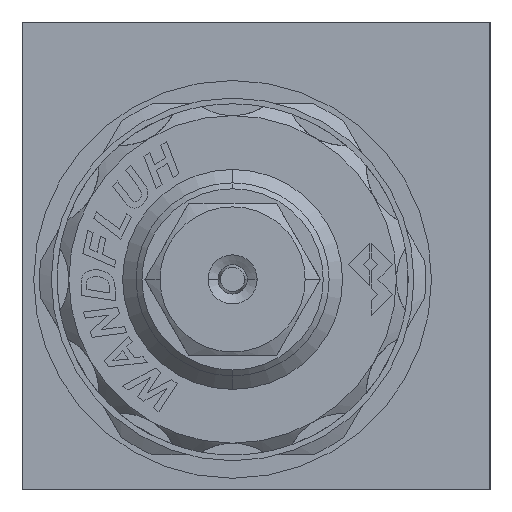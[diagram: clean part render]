
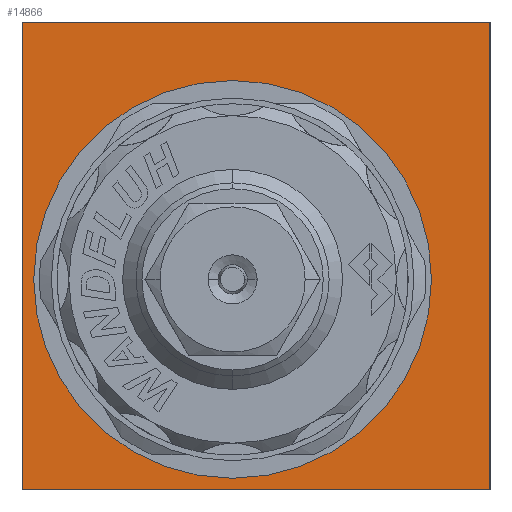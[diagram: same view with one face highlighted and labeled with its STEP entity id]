
A CAD part, left-side view. The second image highlights one B-rep face of the part: STEP entity #14866.
In plain terms, the highlighted planar face has unit normal (-1, 0, 0).
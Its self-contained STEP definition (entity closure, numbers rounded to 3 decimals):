
#73 = CARTESIAN_POINT ( 'NONE',  ( 0., 20., -20. ) ) ;
#88 = CARTESIAN_POINT ( 'NONE',  ( 0., 20., 20. ) ) ;
#299 = CARTESIAN_POINT ( 'NONE',  ( 0., -20., -20. ) ) ;
#462 = VECTOR ( 'NONE', #13059, 1000. ) ;
#1003 = LINE ( 'NONE', #2422, #462 ) ;
#1868 = DIRECTION ( 'NONE',  ( 0., 0., 1. ) ) ;
#2422 = CARTESIAN_POINT ( 'NONE',  ( 0., 20., 20. ) ) ;
#3124 = CIRCLE ( 'NONE', #4284, 17. ) ;
#4281 = VERTEX_POINT ( 'NONE', #5563 ) ;
#4284 = AXIS2_PLACEMENT_3D ( 'NONE', #7719, #20054, #9515 ) ;
#4295 = ORIENTED_EDGE ( 'NONE', *, *, #7974, .F. ) ;
#4308 = DIRECTION ( 'NONE',  ( 0., -1., 0. ) ) ;
#4464 = ORIENTED_EDGE ( 'NONE', *, *, #14466, .F. ) ;
#4740 = EDGE_CURVE ( 'NONE', #20026, #8984, #1003, .T. ) ;
#5319 = DIRECTION ( 'NONE',  ( 0., 0., -1. ) ) ;
#5563 = CARTESIAN_POINT ( 'NONE',  ( 0., -20., -20. ) ) ;
#5665 = DIRECTION ( 'NONE',  ( 0., 1., 0. ) ) ;
#6829 = VERTEX_POINT ( 'NONE', #12166 ) ;
#6982 = VERTEX_POINT ( 'NONE', #8985 ) ;
#7434 = ORIENTED_EDGE ( 'NONE', *, *, #13454, .F. ) ;
#7719 = CARTESIAN_POINT ( 'NONE',  ( 0., 2., -2. ) ) ;
#7974 = EDGE_CURVE ( 'NONE', #4281, #20026, #10349, .T. ) ;
#8316 = EDGE_CURVE ( 'NONE', #6982, #4281, #14441, .T. ) ;
#8984 = VERTEX_POINT ( 'NONE', #88 ) ;
#8985 = CARTESIAN_POINT ( 'NONE',  ( 0., -20., 20. ) ) ;
#9515 = DIRECTION ( 'NONE',  ( 0., 0., 1. ) ) ;
#9551 = DIRECTION ( 'NONE',  ( -1., 0., 0. ) ) ;
#9792 = VECTOR ( 'NONE', #5665, 1000. ) ;
#9913 = VERTEX_POINT ( 'NONE', #15592 ) ;
#9965 = ORIENTED_EDGE ( 'NONE', *, *, #19445, .F. ) ;
#10349 = LINE ( 'NONE', #299, #9792 ) ;
#12166 = CARTESIAN_POINT ( 'NONE',  ( 0., 2., -19. ) ) ;
#12374 = ORIENTED_EDGE ( 'NONE', *, *, #8316, .F. ) ;
#12412 = EDGE_LOOP ( 'NONE', ( #4295, #12374, #9965, #22807 ) ) ;
#12497 = DIRECTION ( 'NONE',  ( -1., 0., 0. ) ) ;
#13059 = DIRECTION ( 'NONE',  ( 0., 0., 1. ) ) ;
#13135 = CARTESIAN_POINT ( 'NONE',  ( 0., 20., -20. ) ) ;
#13454 = EDGE_CURVE ( 'NONE', #9913, #6829, #17928, .T. ) ;
#13644 = EDGE_LOOP ( 'NONE', ( #7434, #4464 ) ) ;
#14272 = AXIS2_PLACEMENT_3D ( 'NONE', #20093, #9551, #21874 ) ;
#14441 = LINE ( 'NONE', #15928, #20748 ) ;
#14466 = EDGE_CURVE ( 'NONE', #6829, #9913, #3124, .T. ) ;
#14866 = ADVANCED_FACE ( 'NONE', ( #21969, #17275 ), #22897, .T. ) ;
#14922 = CARTESIAN_POINT ( 'NONE',  ( 0., -20., 20. ) ) ;
#15592 = CARTESIAN_POINT ( 'NONE',  ( 0., 2., 15. ) ) ;
#15928 = CARTESIAN_POINT ( 'NONE',  ( 0., -20., 20. ) ) ;
#15976 = AXIS2_PLACEMENT_3D ( 'NONE', #73, #12497, #1868 ) ;
#17275 = FACE_OUTER_BOUND ( 'NONE', #12412, .T. ) ;
#17928 = CIRCLE ( 'NONE', #14272, 17. ) ;
#18025 = LINE ( 'NONE', #14922, #22171 ) ;
#19445 = EDGE_CURVE ( 'NONE', #8984, #6982, #18025, .T. ) ;
#20026 = VERTEX_POINT ( 'NONE', #13135 ) ;
#20054 = DIRECTION ( 'NONE',  ( -1., 0., 0. ) ) ;
#20093 = CARTESIAN_POINT ( 'NONE',  ( 0., 2., -2. ) ) ;
#20748 = VECTOR ( 'NONE', #5319, 1000. ) ;
#21874 = DIRECTION ( 'NONE',  ( 0., 0., 1. ) ) ;
#21969 = FACE_BOUND ( 'NONE', #13644, .T. ) ;
#22171 = VECTOR ( 'NONE', #4308, 1000. ) ;
#22807 = ORIENTED_EDGE ( 'NONE', *, *, #4740, .F. ) ;
#22897 = PLANE ( 'NONE',  #15976 ) ;
